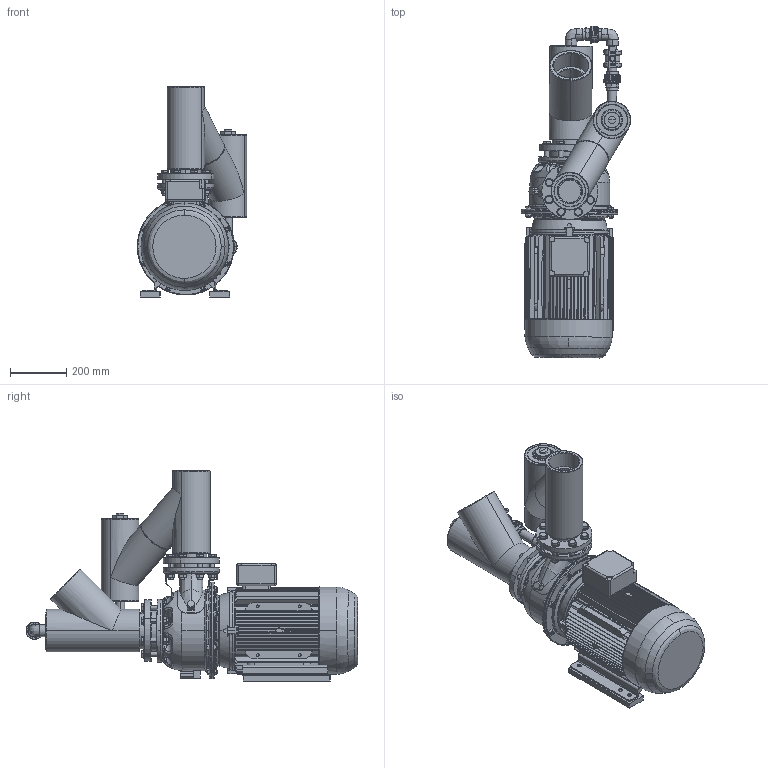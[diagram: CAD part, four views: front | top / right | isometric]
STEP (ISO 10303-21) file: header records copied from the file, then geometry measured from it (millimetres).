
FILE_DESCRIPTION (( 'STEP AP203' ), '1' );
FILE_NAME ('Lowara SHE 80-160 z.a.z handbed. by-pass.STEP', '2011-04-08T07:42:34', ( '' ), ( '' ), 'SwSTEP 2.0', 'SolidWorks 2010', '' );
FILE_SCHEMA (( 'CONFIG_CONTROL_DESIGN' ));
Products named in the file (1): Lowara SHE 80-160 z.a.z handbed. by-pass
Bounding box: 390.37 x 1185.59 x 750.57 mm (x, y, z)
Surface area: 4320948.8 mm2 (no closed solid volume)
Topology: 0 solids, 106 shells, 3499 faces, 8712 edges, 5454 vertices
Faces by surface type: plane 1307, cylinder 1017, cone 632, bspline 521, torus 22
Entity records: 150367 total; most frequent: CARTESIAN_POINT 72110, ORIENTED_EDGE 17225, DIRECTION 15238, EDGE_CURVE 8630, AXIS2_PLACEMENT_3D 6092, VERTEX_POINT 5455, EDGE_LOOP 3867, FACE_OUTER_BOUND 3500
